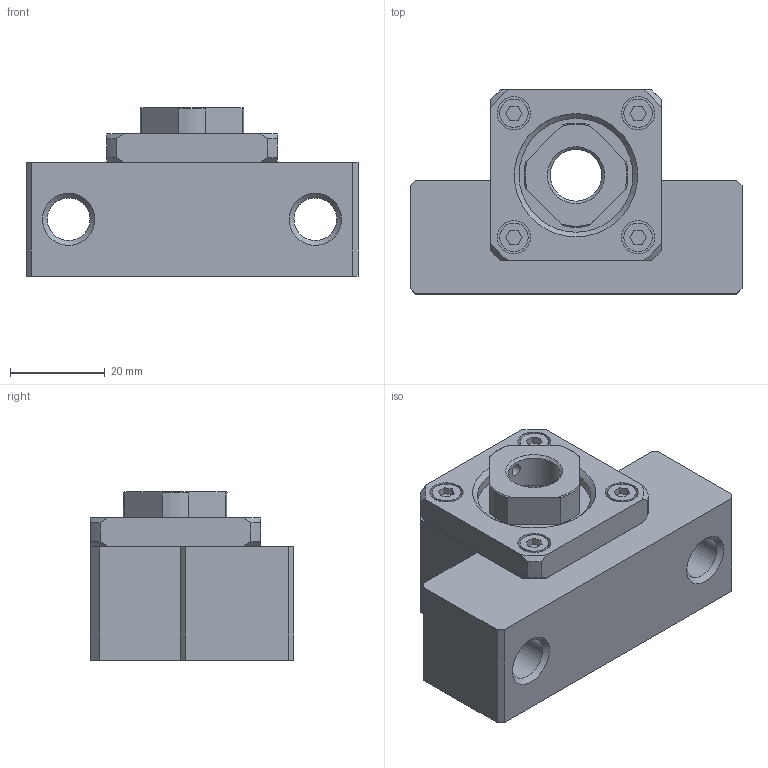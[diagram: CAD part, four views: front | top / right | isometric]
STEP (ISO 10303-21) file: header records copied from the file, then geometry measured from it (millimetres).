
FILE_DESCRIPTION(/* description */ ('STEP AP214'),/* implementation_level */ '2;1');
FILE_NAME(/* name */ 'EK12______CAD_NO_Yes',/* time_stamp */ '2026-09-17T12:55:54+02:00',/* author */ ('License CC BY-ND 4.0'),/* organization */ ('CADENAS'),/* preprocessor_version */ 'ST-DEVELOPER v20',/* originating_system */ 'PARTsolutions',/* authorisation */ ' ');
FILE_SCHEMA (('AUTOMOTIVE_DESIGN {1 0 10303 214 3 1 1}'));
Length unit declared in the file: millimetre
Products named in the file (4): EK12______CAD_NO_Yes; EK 12; EK 12collar; RN 12
Assembly tree (4 placements, depth 2):
  EK12______CAD_NO_Yes
    EK 12
    EK 12collar  x2
    RN 12
Bounding box: 70 x 43 x 35.5 mm (x, y, z)
Volume: 58381.4 mm3; surface area: 15992.8 mm2
Topology: 4 solids, 4 shells, 147 faces, 345 edges, 228 vertices
Faces by surface type: plane 90, cylinder 32, cone 25
Full cylindrical faces by diameter (mm): 2.459 x1, 3 x1, 6 x4, 7 x4, 9 x2, 10.917 x1, 12 x3, 14.9 x4, 17 x1, 24 x2, 24.1 x1
Entity records: 4119 total; most frequent: CARTESIAN_POINT 814, DIRECTION 650, ORIENTED_EDGE 610, EDGE_CURVE 305, AXIS2_PLACEMENT_3D 239, VERTEX_POINT 221, EDGE_LOOP 206, FACE_BOUND 206
